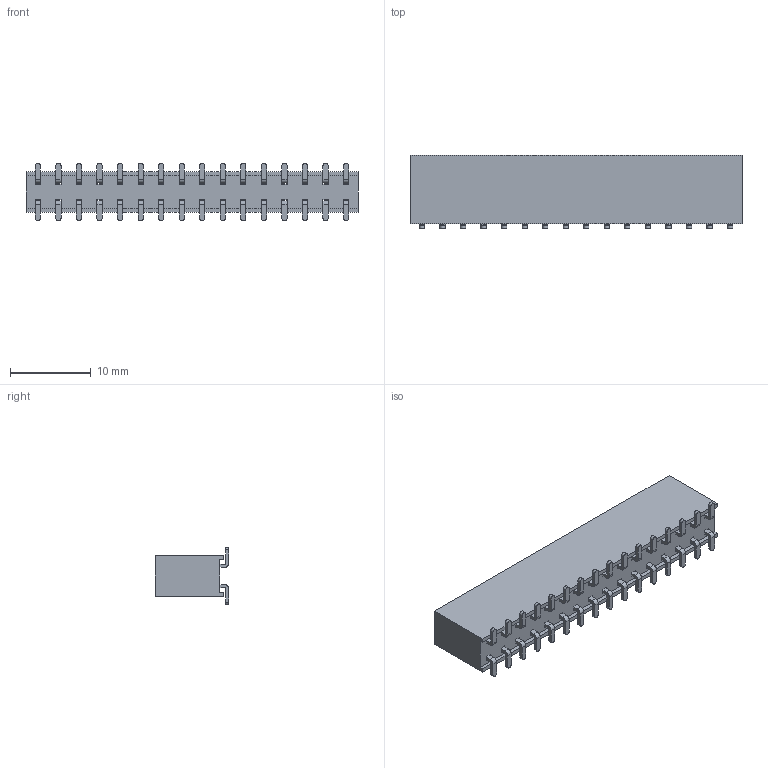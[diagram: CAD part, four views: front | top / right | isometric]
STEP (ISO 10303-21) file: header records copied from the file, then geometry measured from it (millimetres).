
FILE_DESCRIPTION(/* description */ (''),/* implementation_level */ '2;1');
FILE_NAME(/* name */ 'E:\工作文件\排针排母\PM排母\2.54\双排\S-贴片\塑高8.5\PM254-2-N-S-8.5-XX (2.54双排 贴片 排母-HCTL)\PM254-2-16-S-8.5-XX (2.54双排 贴片 排母-HCTL).stp',/* time_stamp */ '2023-12-28T17:04:08+08:00',/* author */ ('admin'),/* organization */ (''),/* preprocessor_version */ 'ST-DEVELOPER v18.1',/* originating_system */ 'Autodesk Inventor 2021',/* authorisation */ '');
FILE_SCHEMA (('AUTOMOTIVE_DESIGN { 1 0 10303 214 3 1 1 }'));
Length unit declared in the file: millimetre
Products named in the file (1): PM254-2-2-S-8.5-XX (2.54双排 贴片 
排母-HCTL)
Bounding box: 41.04 x 9.1 x 7.1 mm (x, y, z)
Volume: 1601.6 mm3; surface area: 2135 mm2
Topology: 1 solids, 1 shells, 586 faces, 1688 edges, 1040 vertices
Faces by surface type: plane 490, cylinder 96
Entity records: 18953 total; most frequent: ORIENTED_EDGE 3376, CARTESIAN_POINT 3315, DIRECTION 3054, EDGE_CURVE 1688, LINE 1496, VECTOR 1496, VERTEX_POINT 1040, AXIS2_PLACEMENT_3D 779
